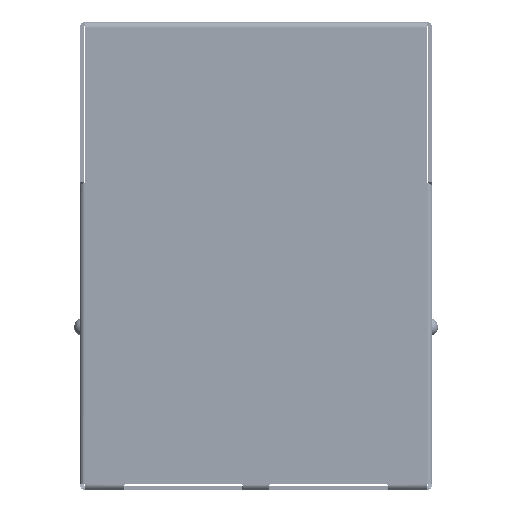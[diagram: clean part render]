
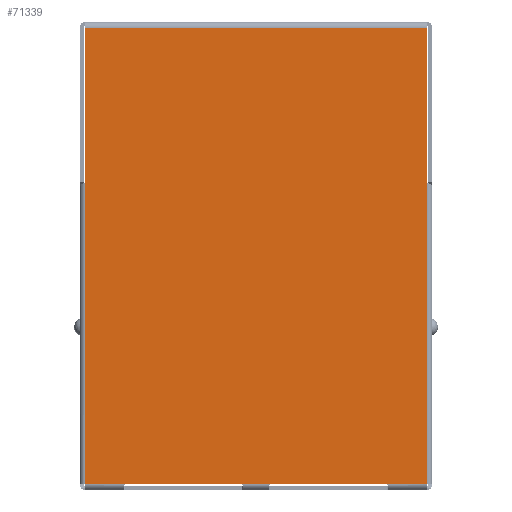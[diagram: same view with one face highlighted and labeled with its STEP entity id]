
A CAD part, front view. The second image highlights one B-rep face of the part: STEP entity #71339.
In plain terms, the highlighted planar face has unit normal (0, -1, 0).
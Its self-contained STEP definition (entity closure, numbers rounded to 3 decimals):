
#67989=DIRECTION('',(1.,0.,0.));
#67990=VECTOR('',#67989,1.3);
#67991=CARTESIAN_POINT('',(-0.65,-12.9,-20.65));
#67992=LINE('',#67991,#67990);
#68081=DIRECTION('',(-1.,0.,0.));
#68082=VECTOR('',#68081,5.28);
#68083=CARTESIAN_POINT('',(5.93,-12.9,-20.65));
#68084=LINE('',#68083,#68082);
#68085=DIRECTION('',(-1.,0.,0.));
#68086=VECTOR('',#68085,5.28);
#68087=CARTESIAN_POINT('',(-0.65,-12.9,-20.65));
#68088=LINE('',#68087,#68086);
#68093=DIRECTION('',(1.,0.,0.));
#68094=VECTOR('',#68093,1.79);
#68095=CARTESIAN_POINT('',(-7.72,-12.9,-20.65));
#68096=LINE('',#68095,#68094);
#68117=CARTESIAN_POINT('',(-0.65,-12.9,-20.65));
#68381=DIRECTION('',(1.,0.,0.));
#68382=VECTOR('',#68381,1.79);
#68383=CARTESIAN_POINT('',(5.93,-12.9,-20.65));
#68384=LINE('',#68383,#68382);
#68562=DIRECTION('',(0.,0.,1.));
#68563=VECTOR('',#68562,13.627);
#68564=CARTESIAN_POINT('',(7.72,-12.9,-20.65));
#68565=LINE('',#68564,#68563);
#68622=DIRECTION('',(0.,0.,1.));
#68623=VECTOR('',#68622,7.023);
#68624=CARTESIAN_POINT('',(7.72,-12.9,-7.023));
#68625=LINE('',#68624,#68623);
#69429=DIRECTION('',(0.,0.,-1.));
#69430=VECTOR('',#69429,7.023);
#69431=CARTESIAN_POINT('',(-7.72,-12.9,0.));
#69432=LINE('',#69431,#69430);
#69441=DIRECTION('',(-1.,0.,0.));
#69442=VECTOR('',#69441,15.44);
#69443=CARTESIAN_POINT('',(7.72,-12.9,0.));
#69444=LINE('',#69443,#69442);
#69505=DIRECTION('',(0.,0.,-1.));
#69506=VECTOR('',#69505,13.627);
#69507=CARTESIAN_POINT('',(-7.72,-12.9,-7.023));
#69508=LINE('',#69507,#69506);
#70467=VERTEX_POINT('',#68117);
#70468=CARTESIAN_POINT('',(0.65,-12.9,-20.65));
#70469=VERTEX_POINT('',#70468);
#70510=CARTESIAN_POINT('',(5.93,-12.9,-20.65));
#70511=VERTEX_POINT('',#70510);
#70512=CARTESIAN_POINT('',(-7.72,-12.9,-20.65));
#70513=CARTESIAN_POINT('',(-5.93,-12.9,-20.65));
#70514=VERTEX_POINT('',#70512);
#70515=VERTEX_POINT('',#70513);
#70516=CARTESIAN_POINT('',(-7.72,-12.9,-7.023));
#70517=VERTEX_POINT('',#70516);
#70518=CARTESIAN_POINT('',(-7.72,-12.9,0.));
#70519=VERTEX_POINT('',#70518);
#70520=CARTESIAN_POINT('',(7.72,-12.9,0.));
#70521=VERTEX_POINT('',#70520);
#70522=CARTESIAN_POINT('',(7.72,-12.9,-7.023));
#70523=VERTEX_POINT('',#70522);
#70524=CARTESIAN_POINT('',(7.72,-12.9,-20.65));
#70525=VERTEX_POINT('',#70524);
#71314=CARTESIAN_POINT('',(0.,-12.9,0.));
#71315=DIRECTION('',(0.,-1.,0.));
#71316=DIRECTION('',(0.,0.,-1.));
#71317=AXIS2_PLACEMENT_3D('',#71314,#71315,#71316);
#71318=PLANE('',#71317);
#71320=ORIENTED_EDGE('',*,*,#71319,.F.);
#71322=ORIENTED_EDGE('',*,*,#71321,.F.);
#71324=ORIENTED_EDGE('',*,*,#71323,.F.);
#71326=ORIENTED_EDGE('',*,*,#71325,.F.);
#71328=ORIENTED_EDGE('',*,*,#71327,.F.);
#71330=ORIENTED_EDGE('',*,*,#71329,.F.);
#71332=ORIENTED_EDGE('',*,*,#71331,.F.);
#71333=ORIENTED_EDGE('',*,*,#71305,.T.);
#71334=ORIENTED_EDGE('',*,*,#71219,.F.);
#71336=ORIENTED_EDGE('',*,*,#71335,.T.);
#71337=EDGE_LOOP('',(#71320,#71322,#71324,#71326,#71328,#71330,#71332,#71333,
#71334,#71336));
#71338=FACE_OUTER_BOUND('',#71337,.F.);
#71219=EDGE_CURVE('',#70467,#70469,#67992,.T.);
#71305=EDGE_CURVE('',#70511,#70469,#68084,.T.);
#71319=EDGE_CURVE('',#70514,#70515,#68096,.T.);
#71321=EDGE_CURVE('',#70517,#70514,#69508,.T.);
#71323=EDGE_CURVE('',#70519,#70517,#69432,.T.);
#71325=EDGE_CURVE('',#70521,#70519,#69444,.T.);
#71327=EDGE_CURVE('',#70523,#70521,#68625,.T.);
#71329=EDGE_CURVE('',#70525,#70523,#68565,.T.);
#71331=EDGE_CURVE('',#70511,#70525,#68384,.T.);
#71335=EDGE_CURVE('',#70467,#70515,#68088,.T.);
#71339=ADVANCED_FACE('',(#71338),#71318,.T.);
